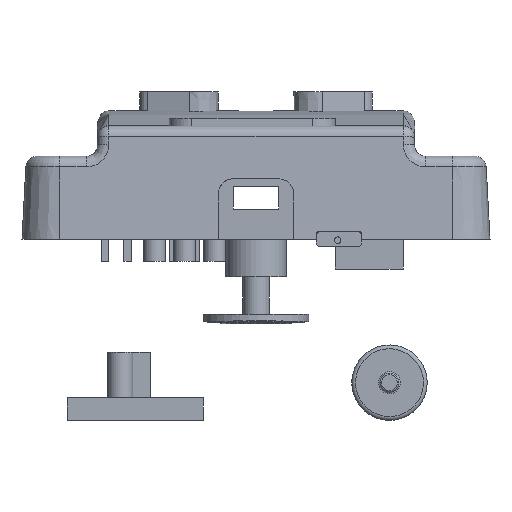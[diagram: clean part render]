
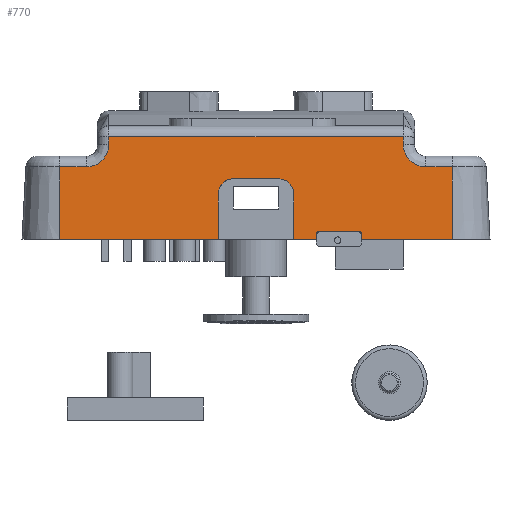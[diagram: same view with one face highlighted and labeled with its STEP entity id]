
A CAD part, front view. The second image highlights one B-rep face of the part: STEP entity #770.
In plain terms, the highlighted planar face has unit normal (0, -0.999, 0.052).
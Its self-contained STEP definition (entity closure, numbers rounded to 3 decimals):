
#343=ELLIPSE('',#5264,3.004,3.);
#344=ELLIPSE('',#5265,2.003,2.);
#345=ELLIPSE('',#5266,2.003,2.);
#346=ELLIPSE('',#5267,0.2,0.2);
#347=ELLIPSE('',#5268,0.2,0.2);
#348=ELLIPSE('',#5269,3.004,3.);
#770=ADVANCED_FACE('',(#1246),#1062,.T.);
#1062=PLANE('',#5270);
#1246=FACE_OUTER_BOUND('',#1489,.T.);
#1489=EDGE_LOOP('',(#1921,#1922,#1923,#1924,#1925,#1926,#1927,#1928,#1929,
#1930,#1931,#1932,#1933,#1934,#1935,#1936,#1937,#1938,#1939,#1940,#1941,
#1942));
#1921=ORIENTED_EDGE('',*,*,#3723,.F.);
#1922=ORIENTED_EDGE('',*,*,#3724,.T.);
#1923=ORIENTED_EDGE('',*,*,#3725,.T.);
#1924=ORIENTED_EDGE('',*,*,#3687,.F.);
#1925=ORIENTED_EDGE('',*,*,#3726,.F.);
#1926=ORIENTED_EDGE('',*,*,#3727,.T.);
#1927=ORIENTED_EDGE('',*,*,#3728,.F.);
#1928=ORIENTED_EDGE('',*,*,#3729,.T.);
#1929=ORIENTED_EDGE('',*,*,#3730,.F.);
#1930=ORIENTED_EDGE('',*,*,#3683,.F.);
#1931=ORIENTED_EDGE('',*,*,#3731,.T.);
#1932=ORIENTED_EDGE('',*,*,#3732,.T.);
#1933=ORIENTED_EDGE('',*,*,#3733,.F.);
#1934=ORIENTED_EDGE('',*,*,#3734,.T.);
#1935=ORIENTED_EDGE('',*,*,#3735,.T.);
#1936=ORIENTED_EDGE('',*,*,#3699,.F.);
#1937=ORIENTED_EDGE('',*,*,#3736,.T.);
#1938=ORIENTED_EDGE('',*,*,#3737,.T.);
#1939=ORIENTED_EDGE('',*,*,#3738,.F.);
#1940=ORIENTED_EDGE('',*,*,#3739,.T.);
#1941=ORIENTED_EDGE('',*,*,#3740,.T.);
#1942=ORIENTED_EDGE('',*,*,#3741,.T.);
#3227=VERTEX_POINT('',#7248);
#3228=VERTEX_POINT('',#7250);
#3231=VERTEX_POINT('',#7256);
#3232=VERTEX_POINT('',#7258);
#3243=VERTEX_POINT('',#7280);
#3244=VERTEX_POINT('',#7282);
#3265=VERTEX_POINT('',#7333);
#3266=VERTEX_POINT('',#7334);
#3267=VERTEX_POINT('',#7336);
#3268=VERTEX_POINT('',#7339);
#3269=VERTEX_POINT('',#7341);
#3270=VERTEX_POINT('',#7343);
#3271=VERTEX_POINT('',#7345);
#3272=VERTEX_POINT('',#7348);
#3273=VERTEX_POINT('',#7350);
#3274=VERTEX_POINT('',#7352);
#3275=VERTEX_POINT('',#7354);
#3276=VERTEX_POINT('',#7357);
#3277=VERTEX_POINT('',#7359);
#3278=VERTEX_POINT('',#7361);
#3279=VERTEX_POINT('',#7363);
#3280=VERTEX_POINT('',#7365);
#3683=EDGE_CURVE('',#3227,#3228,#4353,.T.);
#3687=EDGE_CURVE('',#3231,#3232,#4357,.T.);
#3699=EDGE_CURVE('',#3243,#3244,#4365,.T.);
#3723=EDGE_CURVE('',#3265,#3266,#343,.T.);
#3724=EDGE_CURVE('',#3265,#3267,#4379,.T.);
#3725=EDGE_CURVE('',#3267,#3232,#4380,.T.);
#3726=EDGE_CURVE('',#3268,#3231,#4381,.T.);
#3727=EDGE_CURVE('',#3268,#3269,#344,.T.);
#3728=EDGE_CURVE('',#3270,#3269,#4382,.T.);
#3729=EDGE_CURVE('',#3270,#3271,#345,.T.);
#3730=EDGE_CURVE('',#3228,#3271,#4383,.T.);
#3731=EDGE_CURVE('',#3227,#3272,#4384,.T.);
#3732=EDGE_CURVE('',#3272,#3273,#346,.T.);
#3733=EDGE_CURVE('',#3274,#3273,#4385,.T.);
#3734=EDGE_CURVE('',#3274,#3275,#347,.T.);
#3735=EDGE_CURVE('',#3275,#3244,#4386,.T.);
#3736=EDGE_CURVE('',#3243,#3276,#4387,.T.);
#3737=EDGE_CURVE('',#3276,#3277,#4388,.T.);
#3738=EDGE_CURVE('',#3278,#3277,#348,.T.);
#3739=EDGE_CURVE('',#3278,#3279,#4389,.T.);
#3740=EDGE_CURVE('',#3279,#3280,#4390,.T.);
#3741=EDGE_CURVE('',#3280,#3266,#4391,.T.);
#4353=LINE('',#7249,#4801);
#4357=LINE('',#7257,#4805);
#4365=LINE('',#7281,#4813);
#4379=LINE('',#7335,#4827);
#4380=LINE('',#7337,#4828);
#4381=LINE('',#7338,#4829);
#4382=LINE('',#7342,#4830);
#4383=LINE('',#7346,#4831);
#4384=LINE('',#7347,#4832);
#4385=LINE('',#7351,#4833);
#4386=LINE('',#7355,#4834);
#4387=LINE('',#7356,#4835);
#4388=LINE('',#7358,#4836);
#4389=LINE('',#7362,#4837);
#4390=LINE('',#7364,#4838);
#4391=LINE('',#7366,#4839);
#4801=VECTOR('',#5771,1.);
#4805=VECTOR('',#5775,1.);
#4813=VECTOR('',#5791,1.);
#4827=VECTOR('',#5839,1.);
#4828=VECTOR('',#5840,1.);
#4829=VECTOR('',#5841,1.);
#4830=VECTOR('',#5844,1.);
#4831=VECTOR('',#5847,1.);
#4832=VECTOR('',#5848,1.);
#4833=VECTOR('',#5851,1.);
#4834=VECTOR('',#5854,1.);
#4835=VECTOR('',#5855,1.);
#4836=VECTOR('',#5856,1.);
#4837=VECTOR('',#5859,1.);
#4838=VECTOR('',#5860,1.);
#4839=VECTOR('',#5861,1.);
#5264=AXIS2_PLACEMENT_3D('',#7332,#5837,#5838);
#5265=AXIS2_PLACEMENT_3D('',#7340,#5842,#5843);
#5266=AXIS2_PLACEMENT_3D('',#7344,#5845,#5846);
#5267=AXIS2_PLACEMENT_3D('',#7349,#5849,#5850);
#5268=AXIS2_PLACEMENT_3D('',#7353,#5852,#5853);
#5269=AXIS2_PLACEMENT_3D('',#7360,#5857,#5858);
#5270=AXIS2_PLACEMENT_3D('',#7367,#5862,#5863);
#5771=DIRECTION('',(-1.,0.,0.));
#5775=DIRECTION('',(-1.,0.,0.));
#5791=DIRECTION('',(-1.,0.,0.));
#5837=DIRECTION('',(0.,-0.999,0.052));
#5838=DIRECTION('',(0.,-0.052,-0.999));
#5839=DIRECTION('',(-1.,0.,0.));
#5840=DIRECTION('',(0.,-0.052,-0.999));
#5841=DIRECTION('',(0.,-0.052,-0.999));
#5842=DIRECTION('',(0.,0.999,-0.052));
#5843=DIRECTION('',(0.,-0.052,-0.999));
#5844=DIRECTION('',(-1.,0.,0.));
#5845=DIRECTION('',(0.,0.999,-0.052));
#5846=DIRECTION('',(0.,-0.052,-0.999));
#5847=DIRECTION('',(0.,0.052,0.999));
#5848=DIRECTION('',(0.,0.052,0.999));
#5849=DIRECTION('',(0.,0.999,-0.052));
#5850=DIRECTION('',(0.,-0.052,-0.999));
#5851=DIRECTION('',(-1.,0.,0.));
#5852=DIRECTION('',(0.,0.999,-0.052));
#5853=DIRECTION('',(0.,0.052,0.999));
#5854=DIRECTION('',(0.,-0.052,-0.999));
#5855=DIRECTION('',(0.,0.052,0.999));
#5856=DIRECTION('',(-1.,0.,0.));
#5857=DIRECTION('',(0.,-0.999,0.052));
#5858=DIRECTION('',(0.,-0.052,-0.999));
#5859=DIRECTION('',(0.,0.052,0.999));
#5860=DIRECTION('',(-1.,0.,0.));
#5861=DIRECTION('',(0.,-0.052,-0.999));
#5862=DIRECTION('',(0.,-0.999,0.052));
#5863=DIRECTION('',(0.,0.052,0.999));
#7248=CARTESIAN_POINT('',(8.,-33.,2.439));
#7249=CARTESIAN_POINT('',(31.,-33.,2.439));
#7250=CARTESIAN_POINT('',(5.,-33.,2.439));
#7256=CARTESIAN_POINT('',(-5.,-33.,2.439));
#7257=CARTESIAN_POINT('',(31.,-33.,2.439));
#7258=CARTESIAN_POINT('',(-26.,-33.,2.439));
#7280=CARTESIAN_POINT('',(26.,-33.,2.439));
#7281=CARTESIAN_POINT('',(31.,-33.,2.439));
#7282=CARTESIAN_POINT('',(14.,-33.,2.439));
#7332=CARTESIAN_POINT('',(-22.5,-32.341,15.018));
#7333=CARTESIAN_POINT('',(-22.5,-32.498,12.018));
#7334=CARTESIAN_POINT('',(-19.5,-32.341,15.018));
#7335=CARTESIAN_POINT('',(0.,-32.498,12.018));
#7336=CARTESIAN_POINT('',(-26.,-32.498,12.018));
#7337=CARTESIAN_POINT('',(-26.,-33.,2.439));
#7338=CARTESIAN_POINT('',(-5.,-33.,2.439));
#7339=CARTESIAN_POINT('',(-5.,-32.686,8.439));
#7340=CARTESIAN_POINT('',(-3.,-32.686,8.439));
#7341=CARTESIAN_POINT('',(-3.,-32.581,10.439));
#7342=CARTESIAN_POINT('',(0.,-32.581,10.439));
#7343=CARTESIAN_POINT('',(3.,-32.581,10.439));
#7344=CARTESIAN_POINT('',(3.,-32.686,8.439));
#7345=CARTESIAN_POINT('',(5.,-32.686,8.439));
#7346=CARTESIAN_POINT('',(5.,-33.,2.439));
#7347=CARTESIAN_POINT('',(8.,-33.,2.439));
#7348=CARTESIAN_POINT('',(8.,-32.958,3.239));
#7349=CARTESIAN_POINT('',(8.2,-32.958,3.239));
#7350=CARTESIAN_POINT('',(8.2,-32.948,3.439));
#7351=CARTESIAN_POINT('',(0.,-32.948,3.439));
#7352=CARTESIAN_POINT('',(13.8,-32.948,3.439));
#7353=CARTESIAN_POINT('',(13.8,-32.958,3.239));
#7354=CARTESIAN_POINT('',(14.,-32.958,3.239));
#7355=CARTESIAN_POINT('',(14.,-33.,2.439));
#7356=CARTESIAN_POINT('',(26.,-33.,2.439));
#7357=CARTESIAN_POINT('',(26.,-32.498,12.018));
#7358=CARTESIAN_POINT('',(21.,-32.498,12.018));
#7359=CARTESIAN_POINT('',(22.5,-32.498,12.018));
#7360=CARTESIAN_POINT('',(22.5,-32.341,15.018));
#7361=CARTESIAN_POINT('',(19.5,-32.341,15.018));
#7362=CARTESIAN_POINT('',(19.5,-32.292,15.939));
#7363=CARTESIAN_POINT('',(19.5,-32.288,16.018));
#7364=CARTESIAN_POINT('',(0.,-32.288,16.018));
#7365=CARTESIAN_POINT('',(-19.5,-32.288,16.018));
#7366=CARTESIAN_POINT('',(-19.5,-33.,2.439));
#7367=CARTESIAN_POINT('',(0.,-33.,2.439));
